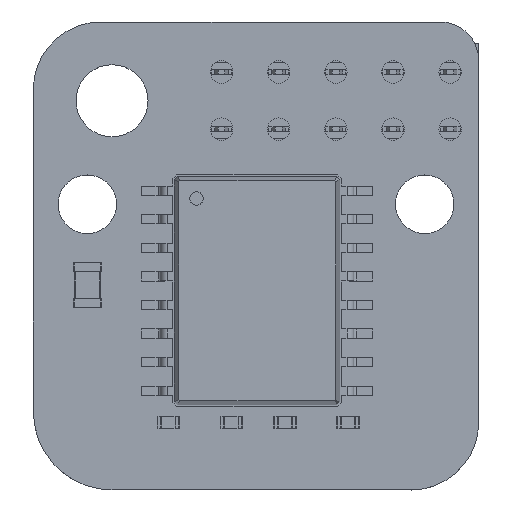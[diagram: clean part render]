
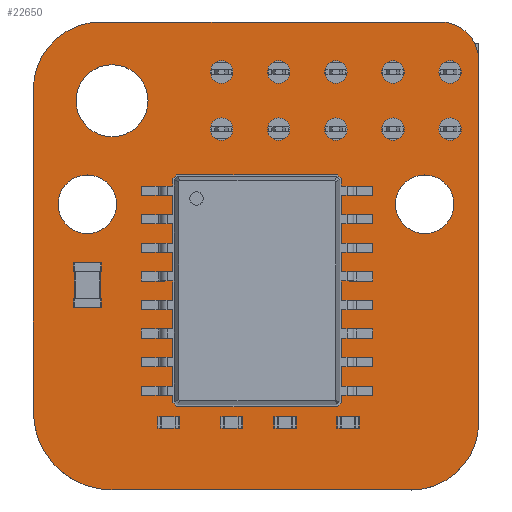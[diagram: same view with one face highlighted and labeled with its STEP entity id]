
A CAD part, top view. The second image highlights one B-rep face of the part: STEP entity #22650.
In plain terms, the highlighted planar face has unit normal (0, 0, 1).
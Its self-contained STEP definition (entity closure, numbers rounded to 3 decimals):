
#22350 = VERTEX_POINT('',#22351);
#22351 = CARTESIAN_POINT('',(14.6,3.5,1.6));
#22357 = EDGE_CURVE('',#22350,#22358,#22360,.T.);
#22358 = VERTEX_POINT('',#22359);
#22359 = CARTESIAN_POINT('',(16.3,1.8,1.6));
#22360 = CIRCLE('',#22361,1.7);
#22361 = AXIS2_PLACEMENT_3D('',#22362,#22363,#22364);
#22362 = CARTESIAN_POINT('',(14.6,1.8,1.6));
#22363 = DIRECTION('',(0.,0.,-1.));
#22364 = DIRECTION('',(0.,1.,0.));
#22392 = VERTEX_POINT('',#22393);
#22393 = CARTESIAN_POINT('',(-0.5,3.5,1.6));
#22399 = EDGE_CURVE('',#22392,#22350,#22400,.T.);
#22400 = LINE('',#22401,#22402);
#22401 = CARTESIAN_POINT('',(-0.5,3.5,1.6));
#22402 = VECTOR('',#22403,1.);
#22403 = DIRECTION('',(1.,0.,0.));
#22421 = EDGE_CURVE('',#22358,#22422,#22424,.T.);
#22422 = VERTEX_POINT('',#22423);
#22423 = CARTESIAN_POINT('',(16.3,-14.3,1.6));
#22424 = LINE('',#22425,#22426);
#22425 = CARTESIAN_POINT('',(16.3,1.8,1.6));
#22426 = VECTOR('',#22427,1.);
#22427 = DIRECTION('',(0.,-1.,0.));
#22650 = ADVANCED_FACE('',(#22651,#22705,#22716,#22727,#22738,#22749,
    #22760,#22771,#22782,#22793,#22804,#22815,#22826,#22837),#22848,.T.
  );
#22651 = FACE_BOUND('',#22652,.T.);
#22652 = EDGE_LOOP('',(#22653,#22654,#22655,#22664,#22672,#22681,#22689,
    #22697,#22704));
#22653 = ORIENTED_EDGE('',*,*,#22357,.F.);
#22654 = ORIENTED_EDGE('',*,*,#22399,.F.);
#22655 = ORIENTED_EDGE('',*,*,#22656,.F.);
#22656 = EDGE_CURVE('',#22657,#22392,#22659,.T.);
#22657 = VERTEX_POINT('',#22658);
#22658 = CARTESIAN_POINT('',(-3.5,0.5,1.6));
#22659 = CIRCLE('',#22660,3.);
#22660 = AXIS2_PLACEMENT_3D('',#22661,#22662,#22663);
#22661 = CARTESIAN_POINT('',(-0.5,0.5,1.6));
#22662 = DIRECTION('',(0.,0.,-1.));
#22663 = DIRECTION('',(-1.,0.,0.));
#22664 = ORIENTED_EDGE('',*,*,#22665,.F.);
#22665 = EDGE_CURVE('',#22666,#22657,#22668,.T.);
#22666 = VERTEX_POINT('',#22667);
#22667 = CARTESIAN_POINT('',(-3.5,-13.8,1.6));
#22668 = LINE('',#22669,#22670);
#22669 = CARTESIAN_POINT('',(-3.5,-13.8,1.6));
#22670 = VECTOR('',#22671,1.);
#22671 = DIRECTION('',(0.,1.,0.));
#22672 = ORIENTED_EDGE('',*,*,#22673,.F.);
#22673 = EDGE_CURVE('',#22674,#22666,#22676,.T.);
#22674 = VERTEX_POINT('',#22675);
#22675 = CARTESIAN_POINT('',(0.,-17.3,1.6));
#22676 = CIRCLE('',#22677,3.5);
#22677 = AXIS2_PLACEMENT_3D('',#22678,#22679,#22680);
#22678 = CARTESIAN_POINT('',(0.,-13.8,1.6));
#22679 = DIRECTION('',(0.,0.,-1.));
#22680 = DIRECTION('',(0.,-1.,0.));
#22681 = ORIENTED_EDGE('',*,*,#22682,.F.);
#22682 = EDGE_CURVE('',#22683,#22674,#22685,.T.);
#22683 = VERTEX_POINT('',#22684);
#22684 = CARTESIAN_POINT('',(13.3,-17.3,1.6));
#22685 = LINE('',#22686,#22687);
#22686 = CARTESIAN_POINT('',(13.3,-17.3,1.6));
#22687 = VECTOR('',#22688,1.);
#22688 = DIRECTION('',(-1.,0.,0.));
#22689 = ORIENTED_EDGE('',*,*,#22690,.F.);
#22690 = EDGE_CURVE('',#22691,#22683,#22693,.T.);
#22691 = VERTEX_POINT('',#22692);
#22692 = CARTESIAN_POINT('',(13.3,-17.3,1.6));
#22693 = LINE('',#22694,#22695);
#22694 = CARTESIAN_POINT('',(13.3,-17.3,1.6));
#22695 = VECTOR('',#22696,1.);
#22696 = DIRECTION('',(0.,-1.,0.));
#22697 = ORIENTED_EDGE('',*,*,#22698,.F.);
#22698 = EDGE_CURVE('',#22422,#22691,#22699,.T.);
#22699 = CIRCLE('',#22700,3.);
#22700 = AXIS2_PLACEMENT_3D('',#22701,#22702,#22703);
#22701 = CARTESIAN_POINT('',(13.3,-14.3,1.6));
#22702 = DIRECTION('',(0.,0.,-1.));
#22703 = DIRECTION('',(1.,0.,0.));
#22704 = ORIENTED_EDGE('',*,*,#22421,.F.);
#22705 = FACE_BOUND('',#22706,.T.);
#22706 = EDGE_LOOP('',(#22707));
#22707 = ORIENTED_EDGE('',*,*,#22708,.F.);
#22708 = EDGE_CURVE('',#22709,#22709,#22711,.T.);
#22709 = VERTEX_POINT('',#22710);
#22710 = CARTESIAN_POINT('',(0.2,-4.6,1.6));
#22711 = CIRCLE('',#22712,1.3);
#22712 = AXIS2_PLACEMENT_3D('',#22713,#22714,#22715);
#22713 = CARTESIAN_POINT('',(-1.1,-4.6,1.6));
#22714 = DIRECTION('',(0.,0.,1.));
#22715 = DIRECTION('',(1.,0.,-0.));
#22716 = FACE_BOUND('',#22717,.T.);
#22717 = EDGE_LOOP('',(#22718));
#22718 = ORIENTED_EDGE('',*,*,#22719,.F.);
#22719 = EDGE_CURVE('',#22720,#22720,#22722,.T.);
#22720 = VERTEX_POINT('',#22721);
#22721 = CARTESIAN_POINT('',(15.2,-4.6,1.6));
#22722 = CIRCLE('',#22723,1.3);
#22723 = AXIS2_PLACEMENT_3D('',#22724,#22725,#22726);
#22724 = CARTESIAN_POINT('',(13.9,-4.6,1.6));
#22725 = DIRECTION('',(0.,0.,1.));
#22726 = DIRECTION('',(1.,0.,-0.));
#22727 = FACE_BOUND('',#22728,.T.);
#22728 = EDGE_LOOP('',(#22729));
#22729 = ORIENTED_EDGE('',*,*,#22730,.T.);
#22730 = EDGE_CURVE('',#22731,#22731,#22733,.T.);
#22731 = VERTEX_POINT('',#22732);
#22732 = CARTESIAN_POINT('',(4.87,-1.763,1.6));
#22733 = CIRCLE('',#22734,0.5);
#22734 = AXIS2_PLACEMENT_3D('',#22735,#22736,#22737);
#22735 = CARTESIAN_POINT('',(4.87,-1.263,1.6));
#22736 = DIRECTION('',(-0.,0.,-1.));
#22737 = DIRECTION('',(-0.,-1.,0.));
#22738 = FACE_BOUND('',#22739,.T.);
#22739 = EDGE_LOOP('',(#22740));
#22740 = ORIENTED_EDGE('',*,*,#22741,.T.);
#22741 = EDGE_CURVE('',#22742,#22742,#22744,.T.);
#22742 = VERTEX_POINT('',#22743);
#22743 = CARTESIAN_POINT('',(0.,-1.6,1.6));
#22744 = CIRCLE('',#22745,1.6);
#22745 = AXIS2_PLACEMENT_3D('',#22746,#22747,#22748);
#22746 = CARTESIAN_POINT('',(0.,0.,1.6)
  );
#22747 = DIRECTION('',(-0.,0.,-1.));
#22748 = DIRECTION('',(0.,-1.,-0.));
#22749 = FACE_BOUND('',#22750,.T.);
#22750 = EDGE_LOOP('',(#22751));
#22751 = ORIENTED_EDGE('',*,*,#22752,.T.);
#22752 = EDGE_CURVE('',#22753,#22753,#22755,.T.);
#22753 = VERTEX_POINT('',#22754);
#22754 = CARTESIAN_POINT('',(4.87,0.777,1.6));
#22755 = CIRCLE('',#22756,0.5);
#22756 = AXIS2_PLACEMENT_3D('',#22757,#22758,#22759);
#22757 = CARTESIAN_POINT('',(4.87,1.277,1.6));
#22758 = DIRECTION('',(-0.,0.,-1.));
#22759 = DIRECTION('',(-0.,-1.,0.));
#22760 = FACE_BOUND('',#22761,.T.);
#22761 = EDGE_LOOP('',(#22762));
#22762 = ORIENTED_EDGE('',*,*,#22763,.T.);
#22763 = EDGE_CURVE('',#22764,#22764,#22766,.T.);
#22764 = VERTEX_POINT('',#22765);
#22765 = CARTESIAN_POINT('',(7.41,-1.763,1.6));
#22766 = CIRCLE('',#22767,0.5);
#22767 = AXIS2_PLACEMENT_3D('',#22768,#22769,#22770);
#22768 = CARTESIAN_POINT('',(7.41,-1.263,1.6));
#22769 = DIRECTION('',(-0.,0.,-1.));
#22770 = DIRECTION('',(-0.,-1.,0.));
#22771 = FACE_BOUND('',#22772,.T.);
#22772 = EDGE_LOOP('',(#22773));
#22773 = ORIENTED_EDGE('',*,*,#22774,.T.);
#22774 = EDGE_CURVE('',#22775,#22775,#22777,.T.);
#22775 = VERTEX_POINT('',#22776);
#22776 = CARTESIAN_POINT('',(9.95,-1.763,1.6));
#22777 = CIRCLE('',#22778,0.5);
#22778 = AXIS2_PLACEMENT_3D('',#22779,#22780,#22781);
#22779 = CARTESIAN_POINT('',(9.95,-1.263,1.6));
#22780 = DIRECTION('',(-0.,0.,-1.));
#22781 = DIRECTION('',(-0.,-1.,0.));
#22782 = FACE_BOUND('',#22783,.T.);
#22783 = EDGE_LOOP('',(#22784));
#22784 = ORIENTED_EDGE('',*,*,#22785,.T.);
#22785 = EDGE_CURVE('',#22786,#22786,#22788,.T.);
#22786 = VERTEX_POINT('',#22787);
#22787 = CARTESIAN_POINT('',(12.49,-1.763,1.6));
#22788 = CIRCLE('',#22789,0.5);
#22789 = AXIS2_PLACEMENT_3D('',#22790,#22791,#22792);
#22790 = CARTESIAN_POINT('',(12.49,-1.263,1.6));
#22791 = DIRECTION('',(-0.,0.,-1.));
#22792 = DIRECTION('',(-0.,-1.,0.));
#22793 = FACE_BOUND('',#22794,.T.);
#22794 = EDGE_LOOP('',(#22795));
#22795 = ORIENTED_EDGE('',*,*,#22796,.T.);
#22796 = EDGE_CURVE('',#22797,#22797,#22799,.T.);
#22797 = VERTEX_POINT('',#22798);
#22798 = CARTESIAN_POINT('',(15.03,-1.763,1.6));
#22799 = CIRCLE('',#22800,0.5);
#22800 = AXIS2_PLACEMENT_3D('',#22801,#22802,#22803);
#22801 = CARTESIAN_POINT('',(15.03,-1.263,1.6));
#22802 = DIRECTION('',(-0.,0.,-1.));
#22803 = DIRECTION('',(-0.,-1.,0.));
#22804 = FACE_BOUND('',#22805,.T.);
#22805 = EDGE_LOOP('',(#22806));
#22806 = ORIENTED_EDGE('',*,*,#22807,.T.);
#22807 = EDGE_CURVE('',#22808,#22808,#22810,.T.);
#22808 = VERTEX_POINT('',#22809);
#22809 = CARTESIAN_POINT('',(7.41,0.777,1.6));
#22810 = CIRCLE('',#22811,0.5);
#22811 = AXIS2_PLACEMENT_3D('',#22812,#22813,#22814);
#22812 = CARTESIAN_POINT('',(7.41,1.277,1.6));
#22813 = DIRECTION('',(-0.,0.,-1.));
#22814 = DIRECTION('',(-0.,-1.,0.));
#22815 = FACE_BOUND('',#22816,.T.);
#22816 = EDGE_LOOP('',(#22817));
#22817 = ORIENTED_EDGE('',*,*,#22818,.T.);
#22818 = EDGE_CURVE('',#22819,#22819,#22821,.T.);
#22819 = VERTEX_POINT('',#22820);
#22820 = CARTESIAN_POINT('',(9.95,0.777,1.6));
#22821 = CIRCLE('',#22822,0.5);
#22822 = AXIS2_PLACEMENT_3D('',#22823,#22824,#22825);
#22823 = CARTESIAN_POINT('',(9.95,1.277,1.6));
#22824 = DIRECTION('',(-0.,0.,-1.));
#22825 = DIRECTION('',(-0.,-1.,0.));
#22826 = FACE_BOUND('',#22827,.T.);
#22827 = EDGE_LOOP('',(#22828));
#22828 = ORIENTED_EDGE('',*,*,#22829,.T.);
#22829 = EDGE_CURVE('',#22830,#22830,#22832,.T.);
#22830 = VERTEX_POINT('',#22831);
#22831 = CARTESIAN_POINT('',(12.49,0.777,1.6));
#22832 = CIRCLE('',#22833,0.5);
#22833 = AXIS2_PLACEMENT_3D('',#22834,#22835,#22836);
#22834 = CARTESIAN_POINT('',(12.49,1.277,1.6));
#22835 = DIRECTION('',(-0.,0.,-1.));
#22836 = DIRECTION('',(-0.,-1.,0.));
#22837 = FACE_BOUND('',#22838,.T.);
#22838 = EDGE_LOOP('',(#22839));
#22839 = ORIENTED_EDGE('',*,*,#22840,.T.);
#22840 = EDGE_CURVE('',#22841,#22841,#22843,.T.);
#22841 = VERTEX_POINT('',#22842);
#22842 = CARTESIAN_POINT('',(15.03,0.777,1.6));
#22843 = CIRCLE('',#22844,0.5);
#22844 = AXIS2_PLACEMENT_3D('',#22845,#22846,#22847);
#22845 = CARTESIAN_POINT('',(15.03,1.277,1.6));
#22846 = DIRECTION('',(-0.,0.,-1.));
#22847 = DIRECTION('',(-0.,-1.,0.));
#22848 = PLANE('',#22849);
#22849 = AXIS2_PLACEMENT_3D('',#22850,#22851,#22852);
#22850 = CARTESIAN_POINT('',(0.,0.,1.6));
#22851 = DIRECTION('',(0.,0.,1.));
#22852 = DIRECTION('',(1.,0.,-0.));
